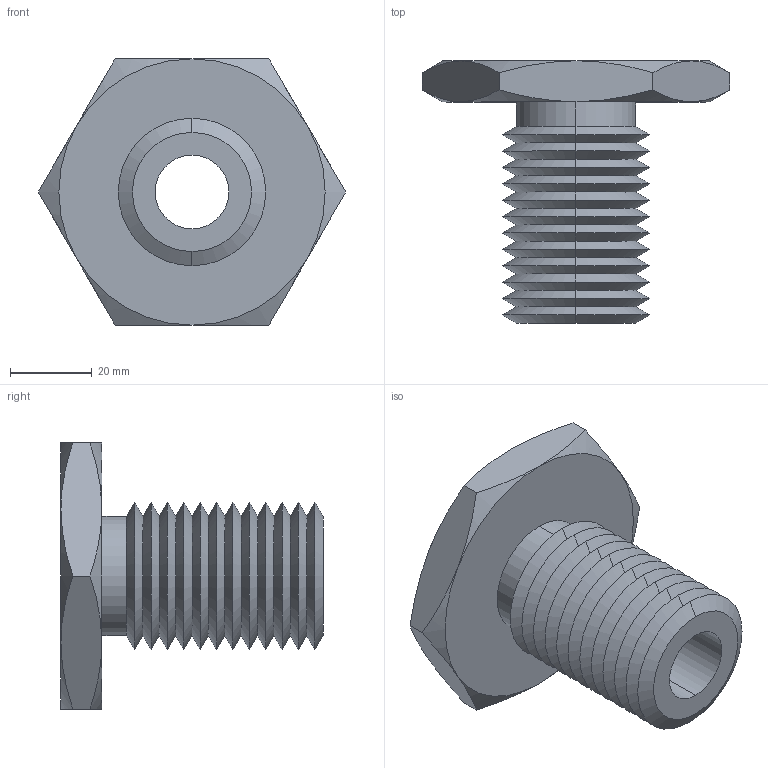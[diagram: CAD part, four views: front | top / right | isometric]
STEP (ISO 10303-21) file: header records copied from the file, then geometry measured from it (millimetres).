
FILE_DESCRIPTION (( 'STEP AP203' ), '1' );
FILE_NAME ('63302.W0036_M18x2,5.step', '2013-12-08T11:09:41', ( 'User' ), ( '' ), 'SwSTEP 2.0', 'SolidWorks 2009', '' );
FILE_SCHEMA (( 'CONFIG_CONTROL_DESIGN' ));
Length unit declared in the file: millimetre
Products named in the file (1): 63302.W0036_M18x2,5
Bounding box: 75.06 x 64 x 65 mm (x, y, z)
Volume: 63555.2 mm3; surface area: 22622.7 mm2
Topology: 1 solids, 1 shells, 75 faces, 154 edges, 82 vertices
Faces by surface type: cone 62, plane 9, cylinder 4
Entity records: 2139 total; most frequent: CARTESIAN_POINT 496, DIRECTION 352, ORIENTED_EDGE 308, EDGE_CURVE 154, AXIS2_PLACEMENT_3D 146, VERTEX_POINT 82, EDGE_LOOP 78, ADVANCED_FACE 75
